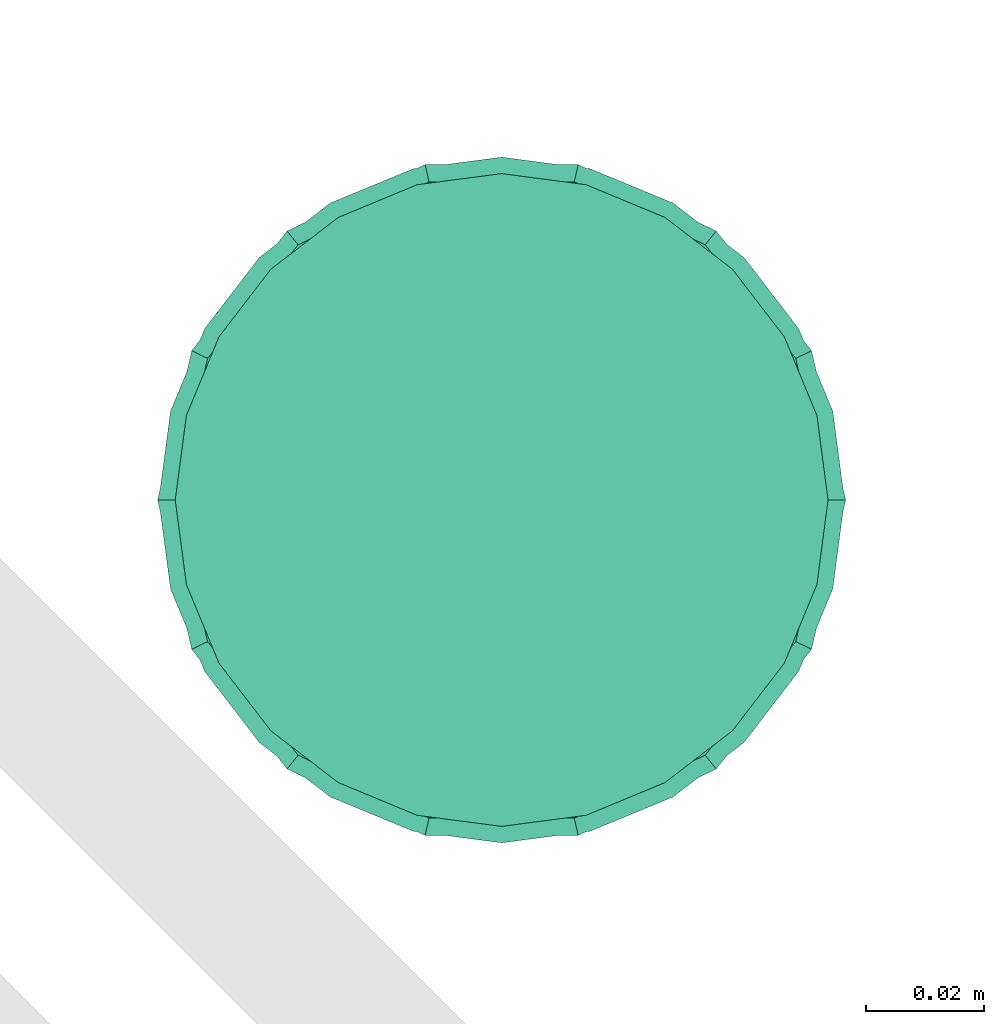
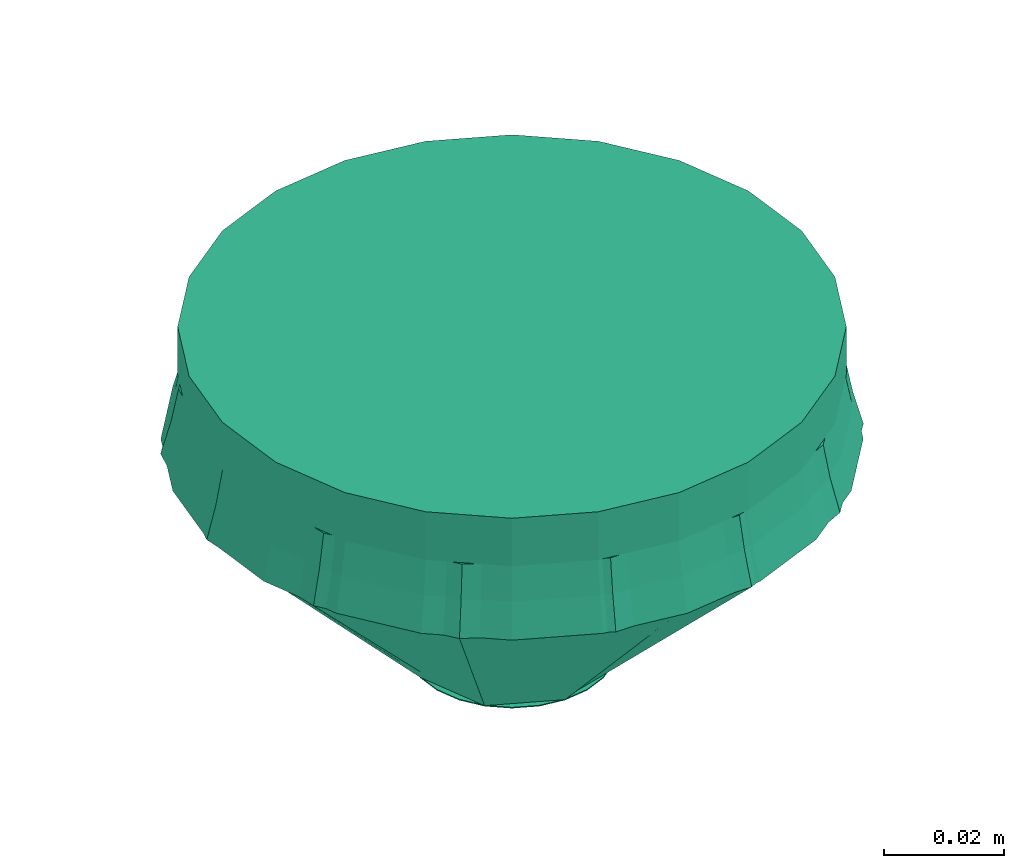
# One storey, part 21 of 51: 1 distribution control element.
"""IFC2X3 building model written with IfcOpenShell, lengths in millimetres."""

from ifc_helpers import new_model, entity, si_unit, converted_unit, derived_unit, direction, frame, origin_with_axes, place, context, subcontext, project, spatial, open_shell, surface_model, source, transform, mapped, type_object, element, save


model = new_model("IFC2X3")

# Units and contexts
model_context = context("Model", 3, precision=0.01, world=frame((0.0, 4.29681676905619e-09, 0.0)), true_north=direction((4.01073788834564e-13, 1.0)))
plan_context = context("Plan", 3, precision=0.01, world=frame((0.0, 4.29681676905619e-09, 0.0)), true_north=direction((4.01073788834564e-13, 1.0)))
body_context = subcontext(model_context, "Body", "Model", "MODEL_VIEW")
ifc_project = project(units=[converted_unit("PLANEANGLEUNIT", "DEGREE", entity("IfcPositiveLengthMeasure", 0.0174532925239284), si_unit("PLANEANGLEUNIT", "RADIAN"), dimensions=[0, 0, 0, 0, 0, 0, 0]), si_unit("AREAUNIT", "SQUARE_METRE"), si_unit("LENGTHUNIT", "METRE", prefix="MILLI"), si_unit("MASSUNIT", "GRAM", prefix="KILO"), si_unit("POWERUNIT", "WATT"), si_unit("PRESSUREUNIT", "PASCAL"), si_unit("FORCEUNIT", "NEWTON", prefix="KILO"), si_unit("ELECTRICVOLTAGEUNIT", "VOLT"), si_unit("ELECTRICCURRENTUNIT", "AMPERE"), si_unit("THERMODYNAMICTEMPERATUREUNIT", "DEGREE_CELSIUS"), si_unit("TIMEUNIT", "SECOND"), si_unit("VOLUMEUNIT", "CUBIC_METRE"), derived_unit("LINEARVELOCITYUNIT", [(si_unit("LENGTHUNIT", "METRE"), 1), (si_unit("TIMEUNIT", "SECOND"), -1)]), derived_unit("VOLUMETRICFLOWRATEUNIT", [(si_unit("VOLUMEUNIT", "CUBIC_METRE"), 1), (si_unit("TIMEUNIT", "SECOND"), -1)]), derived_unit("THERMALTRANSMITTANCEUNIT", [(si_unit("POWERUNIT", "WATT"), 1), (si_unit("THERMODYNAMICTEMPERATUREUNIT", "KELVIN"), -1), (si_unit("AREAUNIT", "SQUARE_METRE"), -1)]), derived_unit("SOUNDPRESSUREUNIT", [(si_unit("PRESSUREUNIT", "PASCAL"), 1)])], contexts=[model_context, plan_context])

# Site, building, storey
site_placement = place(None, frame((0.0, -4.29681676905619e-09, 0.0), z_axis=(0.0, 0.0, 1.0), x_axis=(1.0, 0.0, 0.0)))
site = spatial("IfcSite", under=ifc_project, at=site_placement, Name="ENGM", CompositionType="ELEMENT")
building_placement = place(site_placement, frame((0.0, 4.29681676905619e-09, 0.0), z_axis=(0.0, 0.0, 1.0), x_axis=(1.0, 0.0, 0.0)))
building = spatial("IfcBuilding", under=site, at=building_placement, Name="TI", CompositionType="ELEMENT")
storey_placement = place(building_placement, frame((0.0, 0.0, 210900.0), z_axis=(0.0, 0.0, 1.0), x_axis=(1.0, 0.0, 0.0)))
storey = spatial("IfcBuildingStorey", under=building, at=storey_placement, Name="Nivå F", CompositionType="ELEMENT", Elevation=210900.0)

# Distribution control element
alarm_type = type_object("IfcAlarmType", Name="Standard", PredefinedType="NOTDEFINED")
shared_shape = source(origin_with_axes(), body_context, "Body", "SurfaceModel", [
    surface_model("IfcShellBasedSurfaceModel", [(8.775, -15.19875, -64.9), (-12.40972, -12.40972, -64.9), (4.54227, -16.952, -64.9), (15.19875, -8.775, -64.9), (12.40972, -12.40972, -64.9), (16.952, -4.54227, -64.9), (-4.54227, 16.952, -64.9), (-16.952, -4.54227, -64.9), (0.0, -17.55, -64.9), (-8.775, -15.19875, -64.9), (-4.54227, -16.952, -64.9), (-15.19875, -8.775, -64.9), (17.55, 0.0, -64.9), (15.19875, 8.775, -64.9), (16.952, 4.54227, -64.9), (0.0, 17.55, -64.9), (12.40972, 12.40972, -64.9), (4.54227, 16.952, -64.9), (8.775, 15.19875, -64.9), (-17.55, 0.0, -64.9), (-15.19875, 8.775, -64.9), (-16.952, 4.54227, -64.9), (-12.40972, 12.40972, -64.9), (-8.775, 15.19875, -64.9), (16.952, 4.54227, -65.1), (0.0, 17.55, -65.1), (4.54227, 16.952, -65.1), (12.40972, 12.40972, -65.1), (8.775, 15.19875, -65.1), (15.19875, 8.775, -65.1), (-12.40972, 12.40972, -65.1), (-4.54227, 16.952, -65.1), (-8.775, 15.19875, -65.1), (-15.19875, 8.775, -65.1), (-17.55, 0.0, -65.1), (-16.952, 4.54227, -65.1), (-16.952, -4.54227, -65.1), (16.952, -4.54227, -65.1), (8.775, -15.19875, -65.1), (15.19875, -8.775, -65.1), (12.40972, -12.40972, -65.1), (-12.40972, -12.40972, -65.1), (4.54227, -16.952, -65.1), (-15.19875, -8.775, -65.1), (-8.775, -15.19875, -65.1), (0.0, -17.55, -65.1), (-4.54227, -16.952, -65.1), (17.55, 0.0, -65.1), (-36.47415, 45.73714, -22.75), (-52.70668, 25.3822, -22.75), (-58.5, 0.0, -22.75), (52.70668, 25.3822, -22.75), (13.01748, 57.03328, -22.75), (-13.01748, 57.03328, -22.75), (36.47415, 45.73714, -22.75), (-52.70668, -25.3822, -22.75), (-36.47415, -45.73714, -22.75), (-13.01748, -57.03328, -22.75), (36.47415, -45.73714, -22.75), (52.70668, -25.3822, -22.75), (58.5, 0.0, -22.75), (13.01748, -57.03328, -22.75), (0.0, 17.55, -65.0), (12.40972, 12.40972, -65.0), (-12.40972, 12.40972, -65.0), (-12.40972, -12.40972, -65.0), (-17.55, 0.0, -65.0), (17.55, 0.0, -65.0), (12.40972, -12.40972, -65.0), (0.0, -17.55, -65.0), (-44.59042, -35.55967, -22.75), (-13.69479, -9.30729, -65.0), (55.60334, -12.6911, -22.75), (14.97986, -6.20486, -65.0), (16.26493, -3.10243, -65.0), (-9.30729, -13.69479, -65.0), (-6.20486, -14.97986, -65.0), (-24.74581, -51.38521, -22.75), (-14.97986, -6.20486, -65.0), (24.74581, -51.38521, -22.75), (9.30729, -13.69479, -65.0), (-55.60334, -12.6911, -22.75), (-16.26493, -3.10243, -65.0), (-3.10243, -16.26493, -65.0), (3.10243, -16.26493, -65.0), (0.0, -57.03328, -22.75), (44.59042, -35.55967, -22.75), (13.69479, -9.30729, -65.0), (6.20486, -14.97986, -65.0), (44.59042, 35.55967, -22.75), (13.69479, 9.30729, -65.0), (-55.60334, 12.6911, -22.75), (-14.97986, 6.20486, -65.0), (-16.26493, 3.10243, -65.0), (9.30729, 13.69479, -65.0), (6.20486, 14.97986, -65.0), (24.74581, 51.38521, -22.75), (14.97986, 6.20486, -65.0), (-24.74581, 51.38521, -22.75), (-9.30729, 13.69479, -65.0), (55.60334, 12.6911, -22.75), (16.26493, 3.10243, -65.0), (3.10243, 16.26493, -65.0), (-3.10243, 16.26493, -65.0), (0.0, 57.03328, -22.75), (-44.59042, 35.55967, -22.75), (-13.69479, 9.30729, -65.0), (-6.20486, 14.97986, -65.0), (-28.275, 48.97374, -16.25), (-32.41056, 45.80041, -16.25), (-13.88456, 54.72206, -16.25), (-49.79102, 26.30191, -16.25), (-39.98689, 39.98689, -16.25), (-48.97374, 28.275, -16.25), (-37.1285, 42.18021, -16.25), (-35.38305, 44.36894, -16.25), (-56.2774, 2.07059, -16.25), (-56.75, 0.0, -16.25), (-56.55, 0.0, -16.25), (-51.91976, 21.16268, -16.25), (-51.12998, 24.6229, -16.25), (-54.62311, 14.63622, -16.25), (28.275, 48.97374, -16.25), (14.63622, 54.62311, -16.25), (13.88456, 54.72206, -16.25), (54.62311, -14.63622, -16.25), (56.2774, -2.07059, -16.25), (51.91976, -21.16268, -16.25), (12.62806, 55.32716, -16.25), (9.2884, 55.32716, -16.25), (49.79102, 26.30191, -16.25), (39.98689, 39.98689, -16.25), (37.1285, 42.18021, -16.25), (56.55, 0.0, -16.25), (56.75, 0.0, -16.25), (56.2774, 2.07059, -16.25), (39.98689, -39.98689, -16.25), (49.79102, -26.30191, -16.25), (37.1285, -42.18021, -16.25), (35.38305, 44.36894, -16.25), (32.41056, 45.80041, -16.25), (35.38305, -44.36894, -16.25), (32.41056, -45.80041, -16.25), (-56.2774, -2.07059, -16.25), (-49.79102, -26.30191, -16.25), (-51.91976, -21.16268, -16.25), (-51.12998, -24.6229, -16.25), (-37.1285, -42.18021, -16.25), (-35.38305, -44.36894, -16.25), (-32.41056, -45.80041, -16.25), (-13.88456, -54.72206, -16.25), (-28.275, -48.97374, -16.25), (-14.63622, -54.62311, -16.25), (51.12998, -24.6229, -16.25), (-39.98689, -39.98689, -16.25), (-48.97374, -28.275, -16.25), (-9.2884, 55.32716, -16.25), (-12.62806, 55.32716, -16.25), (28.275, -48.97374, -16.25), (13.88456, -54.72206, -16.25), (14.63622, -54.62311, -16.25), (48.97374, -28.275, -16.25), (12.62806, -55.32716, -16.25), (9.2884, -55.32716, -16.25), (0.0, -56.55, -16.25), (-9.2884, -55.32716, -16.25), (-12.62806, -55.32716, -16.25), (-54.62311, -14.63622, -16.25), (-14.63622, 54.62311, -16.25), (0.0, 56.55, -16.25), (48.97374, 28.275, -16.25), (51.91976, 21.16268, -16.25), (51.12998, 24.6229, -16.25), (54.62311, 14.63622, -16.25), (29.15, 50.48928, -22.75), (33.43697, 47.19977, -22.75), (14.29509, 56.41801, -22.75), (51.34019, 27.09572, -22.75), (41.22432, 41.22432, -22.75), (50.48928, 29.15, -22.75), (58.0274, 2.07059, -22.75), (58.3, 0.0, -22.75), (38.25759, 43.50078, -22.75), (-33.43697, 47.19977, -22.75), (-38.25759, 43.50078, -22.75), (56.31348, 15.08915, -22.75), (53.51269, 21.85086, -22.75), (-14.29509, -56.41801, -22.75), (-9.62167, -57.03328, -22.75), (-29.15, 50.48928, -22.75), (-15.08915, 56.31348, -22.75), (-14.29509, 56.41801, -22.75), (-56.31348, -15.08915, -22.75), (-58.0274, -2.07059, -22.75), (-53.51269, -21.85086, -22.75), (-9.62167, 57.03328, -22.75), (-51.34019, 27.09572, -22.75), (-41.22432, 41.22432, -22.75), (-41.22432, -41.22432, -22.75), (-51.34019, -27.09572, -22.75), (-38.25759, -43.50078, -22.75), (-58.3, 0.0, -22.75), (-58.0274, 2.07059, -22.75), (58.0274, -2.07059, -22.75), (-33.43697, -47.19977, -22.75), (51.34019, -27.09572, -22.75), (53.51269, -21.85086, -22.75), (41.22432, -41.22432, -22.75), (38.25759, -43.50078, -22.75), (29.15, -50.48928, -22.75), (15.08915, -56.31348, -22.75), (14.29509, -56.41801, -22.75), (9.62167, -57.03328, -22.75), (33.43697, -47.19977, -22.75), (50.48928, -29.15, -22.75), (9.62167, 57.03328, -22.75), (-29.15, -50.48928, -22.75), (-15.08915, -56.31348, -22.75), (-50.48928, -29.15, -22.75), (0.0, -58.3, -22.75), (56.31348, -15.08915, -22.75), (15.08915, 56.31348, -22.75), (0.0, 58.3, -22.75), (-50.48928, 29.15, -22.75), (-53.51269, 21.85086, -22.75), (-56.31348, 15.08915, -22.75), (53.15004, -15.77246, -16.25), (43.25652, -34.49592, -16.25), (-54.78902, -16.25884, -22.75), (-53.93999, -12.31145, -16.25), (24.00555, -49.84805, -16.25), (0.0, -55.32716, -16.25), (-24.00555, -49.84805, -16.25), (-43.25652, -34.49592, -16.25), (-53.15004, 15.77246, -16.25), (-43.25652, 34.49592, -16.25), (54.78902, 16.25884, -22.75), (53.93999, 12.31145, -16.25), (-24.00555, 49.84805, -16.25), (0.0, 55.32716, -16.25), (24.00555, 49.84805, -16.25), (43.25652, 34.49592, -16.25), (-27.65, 47.8912, -9.75), (-31.6774, 44.80087, -9.75), (-13.59132, 53.51067, -9.75), (-48.68446, 25.73491, -9.75), (-39.103, 39.103, -9.75), (-47.8912, 27.65, -9.75), (-34.60368, 43.39165, -9.75), (-36.322, 41.23694, -9.75), (-55.0274, 2.07059, -9.75), (-55.5, 0.0, -9.75), (-55.3, 0.0, -9.75), (-50.00377, 24.08055, -9.75), (-50.78195, 20.67112, -9.75), (-53.4157, 14.31269, -9.75), (27.65, 47.8912, -9.75), (14.31269, 53.4157, -9.75), (13.59132, 53.51067, -9.75), (53.4157, -14.31269, -9.75), (55.0274, -2.07059, -9.75), (50.78195, -20.67112, -9.75), (9.05035, 54.1085, -9.75), (12.34991, 54.1085, -9.75), (48.68446, 25.73491, -9.75), (39.103, 39.103, -9.75), (36.322, 41.23694, -9.75), (39.103, -39.103, -9.75), (48.68446, -25.73491, -9.75), (36.322, -41.23694, -9.75), (34.60368, 43.39165, -9.75), (31.6774, 44.80087, -9.75), (55.0274, 2.07059, -9.75), (55.3, 0.0, -9.75), (55.5, 0.0, -9.75), (34.60368, -43.39165, -9.75), (31.6774, -44.80087, -9.75), (-55.0274, -2.07059, -9.75), (-48.68446, -25.73491, -9.75), (-50.78195, -20.67112, -9.75), (-50.00377, -24.08055, -9.75), (-12.34991, -54.1085, -9.75), (-9.05035, -54.1085, -9.75), (-13.59132, -53.51067, -9.75), (-27.65, -47.8912, -9.75), (-14.31269, -53.4157, -9.75), (50.00377, -24.08055, -9.75), (-31.6774, -44.80087, -9.75), (-39.103, -39.103, -9.75), (-36.322, -41.23694, -9.75), (-47.8912, -27.65, -9.75), (-9.05035, 54.1085, -9.75), (-12.34991, 54.1085, -9.75), (27.65, -47.8912, -9.75), (13.59132, -53.51067, -9.75), (14.31269, -53.4157, -9.75), (47.8912, -27.65, -9.75), (0.0, -55.3, -9.75), (9.05035, -54.1085, -9.75), (12.34991, -54.1085, -9.75), (-34.60368, -43.39165, -9.75), (-53.4157, -14.31269, -9.75), (-14.31269, 53.4157, -9.75), (0.0, 55.3, -9.75), (47.8912, 27.65, -9.75), (50.78195, 20.67112, -9.75), (50.00377, 24.08055, -9.75), (53.4157, 14.31269, -9.75), (51.93259, -15.62982, -9.75), (42.30373, -33.7361, -9.75), (-53.10225, -15.98184, -16.25), (-52.75189, -12.04027, -9.75), (23.4768, -48.75007, -9.75), (53.93999, -12.31145, -16.25), (0.0, -54.1085, -9.75), (-23.4768, -48.75007, -9.75), (-42.30373, -33.7361, -9.75), (-51.93259, 15.62982, -9.75), (-42.30373, 33.7361, -9.75), (53.10225, 15.98184, -16.25), (52.75189, 12.04027, -9.75), (-23.4768, 48.75007, -9.75), (-53.93999, 12.31145, -16.25), (0.0, 54.1085, -9.75), (23.4768, 48.75007, -9.75), (42.30373, 33.7361, -9.75), (14.36446, -53.60888, 0.0), (27.75, -48.06441, 0.0), (39.24443, -39.24443, 0.0), (0.0, -55.5, 0.0), (48.06441, -27.75, 0.0), (53.60888, -14.36446, 0.0), (55.5, 0.0, 0.0), (-27.75, -48.06441, 0.0), (-14.36446, -53.60888, 0.0), (-48.06441, -27.75, 0.0), (-39.24443, -39.24443, 0.0), (-53.60888, -14.36446, 0.0), (48.06441, 27.75, 0.0), (14.36446, 53.60888, 0.0), (39.24443, 39.24443, 0.0), (0.0, 55.5, 0.0), (27.75, 48.06441, 0.0), (-27.75, 48.06441, 0.0), (-55.5, 0.0, 0.0), (-48.06441, 27.75, 0.0), (-53.60888, 14.36446, 0.0), (-39.24443, 39.24443, 0.0), (-14.36446, 53.60888, 0.0), (53.60888, 14.36446, 0.0), (14.36446, 53.60888, -9.75), (-27.75, 48.06441, -9.75), (0.0, 55.5, -9.75), (39.24443, 39.24443, -9.75), (27.75, 48.06441, -9.75), (48.06441, 27.75, -9.75), (53.60888, 14.36446, -9.75), (-48.06441, 27.75, -9.75), (-39.24443, 39.24443, -9.75), (-14.36446, 53.60888, -9.75), (-53.60888, 14.36446, -9.75), (53.60888, -14.36446, -9.75), (48.06441, -27.75, -9.75), (-53.60888, -14.36446, -9.75), (39.24443, -39.24443, -9.75), (27.75, -48.06441, -9.75), (14.36446, -53.60888, -9.75), (-27.75, -48.06441, -9.75), (-48.06441, -27.75, -9.75), (-39.24443, -39.24443, -9.75), (0.0, -55.5, -9.75), (-14.36446, -53.60888, -9.75)], [open_shell([[[0, 1, 2]], [[3, 0, 4]], [[0, 5, 1]], [[5, 0, 3]], [[5, 6, 7]], [[8, 9, 10]], [[9, 8, 1]], [[1, 7, 11]], [[1, 8, 2]], [[5, 7, 1]], [[5, 12, 6]], [[13, 6, 14]], [[15, 13, 16]], [[17, 15, 16]], [[17, 16, 18]], [[6, 13, 15]], [[19, 20, 21]], [[19, 7, 20]], [[22, 6, 23]], [[7, 22, 20]], [[6, 22, 7]], [[12, 14, 6]], [[24, 25, 26]], [[27, 26, 28]], [[29, 24, 26]], [[29, 26, 27]], [[25, 24, 30]], [[31, 30, 32]], [[31, 25, 30]], [[33, 34, 35]], [[36, 34, 33]], [[33, 30, 36]], [[30, 24, 37]], [[36, 30, 37]], [[38, 37, 39]], [[36, 37, 38]], [[38, 39, 40]], [[41, 38, 42]], [[36, 41, 43]], [[36, 38, 41]], [[44, 45, 46]], [[45, 44, 41]], [[42, 45, 41]], [[37, 24, 47]], [[36, 7, 34]], [[43, 11, 36]], [[9, 41, 44]], [[43, 41, 1]], [[10, 44, 46]], [[36, 11, 7]], [[7, 19, 34]], [[10, 9, 44]], [[1, 41, 9]], [[1, 11, 43]], [[8, 10, 46]], [[46, 45, 8]], [[42, 2, 45]], [[38, 0, 42]], [[3, 40, 39]], [[38, 40, 4]], [[5, 39, 37]], [[38, 4, 0]], [[0, 2, 42]], [[12, 5, 37]], [[3, 39, 5]], [[3, 4, 40]], [[47, 12, 37]], [[45, 2, 8]], [[24, 14, 47]], [[29, 13, 24]], [[18, 27, 28]], [[29, 27, 16]], [[17, 28, 26]], [[24, 13, 14]], [[14, 12, 47]], [[17, 18, 28]], [[16, 27, 18]], [[16, 13, 29]], [[15, 17, 26]], [[26, 25, 15]], [[31, 6, 25]], [[32, 23, 31]], [[20, 30, 33]], [[32, 30, 22]], [[21, 33, 35]], [[32, 22, 23]], [[23, 6, 31]], [[19, 21, 35]], [[20, 33, 21]], [[20, 22, 30]], [[34, 19, 35]], [[25, 6, 15]], [[48, 49, 50]], [[48, 50, 51]], [[52, 53, 51]], [[51, 54, 52]], [[53, 48, 51]], [[50, 55, 51]], [[55, 56, 57]], [[57, 58, 51]], [[59, 60, 58]], [[60, 51, 58]], [[57, 61, 58]], [[51, 55, 57]], [[62, 63, 64]], [[65, 66, 64]], [[64, 63, 65]], [[67, 68, 69]], [[69, 65, 67]], [[67, 65, 63]], [[65, 70, 71]], [[72, 73, 74]], [[75, 76, 77]], [[55, 78, 71]], [[79, 80, 58]], [[78, 55, 81]], [[81, 82, 78]], [[57, 76, 83]], [[84, 85, 69]], [[59, 73, 72]], [[55, 71, 70]], [[69, 85, 83]], [[60, 74, 67]], [[68, 86, 58]], [[86, 68, 87]], [[56, 65, 75]], [[87, 59, 86]], [[60, 72, 74]], [[65, 56, 70]], [[66, 82, 50]], [[50, 82, 81]], [[56, 75, 77]], [[80, 79, 88]], [[61, 84, 88]], [[80, 68, 58]], [[87, 73, 59]], [[76, 57, 77]], [[85, 84, 61]], [[57, 83, 85]], [[79, 61, 88]], [[63, 89, 90]], [[91, 92, 93]], [[94, 95, 96]], [[51, 97, 90]], [[98, 99, 48]], [[97, 51, 100]], [[100, 101, 97]], [[52, 95, 102]], [[103, 104, 62]], [[49, 92, 91]], [[51, 90, 89]], [[62, 104, 102]], [[50, 93, 66]], [[64, 105, 48]], [[105, 64, 106]], [[54, 63, 94]], [[106, 49, 105]], [[50, 91, 93]], [[63, 54, 89]], [[67, 101, 60]], [[60, 101, 100]], [[54, 94, 96]], [[99, 98, 107]], [[53, 103, 107]], [[99, 64, 48]], [[106, 92, 49]], [[95, 52, 96]], [[104, 103, 53]], [[52, 102, 104]], [[98, 53, 107]], [[108, 109, 110]], [[111, 112, 113]], [[114, 109, 115]], [[116, 117, 118]], [[119, 111, 120]], [[121, 116, 119]], [[122, 123, 124]], [[125, 126, 127]], [[128, 129, 124]], [[130, 131, 132]], [[133, 134, 135]], [[136, 137, 138]], [[132, 139, 140]], [[141, 138, 142]], [[112, 111, 114]], [[117, 143, 118]], [[144, 145, 146]], [[147, 148, 149]], [[150, 151, 152]], [[127, 137, 153]], [[151, 150, 149]], [[154, 147, 144]], [[154, 144, 155]], [[110, 156, 157]], [[158, 159, 160]], [[133, 126, 134]], [[161, 137, 136]], [[162, 159, 163]], [[164, 163, 165]], [[158, 142, 159]], [[150, 166, 165]], [[167, 145, 143]], [[108, 110, 168]], [[169, 156, 129]], [[122, 124, 140]], [[131, 130, 170]], [[130, 171, 172]], [[173, 171, 135]], [[174, 175, 176]], [[177, 178, 179]], [[180, 60, 181]], [[54, 182, 175]], [[48, 183, 184]], [[185, 180, 186]], [[57, 187, 188]], [[189, 190, 191]], [[192, 193, 194]], [[195, 191, 53]], [[196, 197, 184]], [[198, 199, 200]], [[51, 186, 177]], [[201, 50, 202]], [[203, 181, 60]], [[178, 177, 182]], [[204, 56, 200]], [[205, 206, 59]], [[205, 207, 208]], [[209, 210, 211]], [[212, 211, 61]], [[209, 211, 213]], [[194, 199, 55]], [[207, 205, 214]], [[215, 52, 176]], [[216, 187, 217]], [[201, 193, 50]], [[198, 218, 199]], [[208, 58, 213]], [[219, 188, 212]], [[204, 187, 216]], [[220, 206, 203]], [[174, 176, 221]], [[222, 215, 195]], [[189, 191, 183]], [[197, 196, 223]], [[196, 224, 49]], [[225, 224, 202]], [[153, 59, 226]], [[141, 86, 227]], [[228, 146, 229]], [[162, 79, 230]], [[134, 226, 72]], [[72, 60, 134]], [[226, 59, 72]], [[230, 58, 141]], [[59, 153, 227]], [[141, 58, 86]], [[85, 231, 166]], [[166, 57, 85]], [[148, 77, 232]], [[56, 233, 70]], [[146, 70, 233]], [[57, 232, 77]], [[146, 55, 70]], [[50, 229, 117]], [[162, 61, 79]], [[232, 57, 166]], [[58, 230, 79]], [[146, 228, 55]], [[56, 148, 233]], [[59, 227, 86]], [[148, 56, 77]], [[162, 231, 61]], [[50, 228, 229]], [[61, 231, 85]], [[120, 49, 234]], [[115, 105, 235]], [[236, 172, 237]], [[157, 98, 238]], [[117, 234, 91]], [[91, 50, 117]], [[234, 49, 91]], [[238, 48, 115]], [[49, 120, 235]], [[115, 48, 105]], [[104, 239, 128]], [[128, 52, 104]], [[139, 96, 240]], [[54, 241, 89]], [[172, 89, 241]], [[52, 240, 96]], [[172, 51, 89]], [[60, 237, 134]], [[157, 53, 98]], [[240, 52, 128]], [[48, 238, 98]], [[172, 236, 51]], [[54, 139, 241]], [[49, 235, 105]], [[139, 54, 96]], [[157, 239, 53]], [[60, 236, 237]], [[53, 239, 104]], [[125, 133, 181]], [[125, 220, 161]], [[158, 136, 207]], [[214, 136, 161]], [[160, 158, 209]], [[220, 125, 181]], [[214, 161, 220]], [[207, 209, 158]], [[136, 214, 207]], [[210, 160, 209]], [[210, 219, 164]], [[160, 210, 164]], [[151, 152, 217]], [[151, 216, 154]], [[167, 155, 218]], [[198, 155, 154]], [[118, 167, 192]], [[152, 219, 217]], [[151, 217, 216]], [[155, 198, 218]], [[118, 192, 201]], [[192, 167, 218]], [[198, 154, 216]], [[164, 219, 152]], [[121, 118, 201]], [[121, 225, 113]], [[108, 112, 197]], [[223, 112, 113]], [[168, 108, 189]], [[225, 121, 201]], [[223, 113, 225]], [[197, 189, 108]], [[112, 223, 197]], [[190, 168, 189]], [[190, 222, 169]], [[168, 190, 169]], [[122, 123, 221]], [[122, 174, 131]], [[173, 170, 179]], [[178, 170, 131]], [[133, 173, 185]], [[123, 222, 221]], [[122, 221, 174]], [[170, 178, 179]], [[133, 185, 181]], [[185, 173, 179]], [[178, 131, 174]], [[169, 222, 123]], [[242, 243, 244]], [[245, 246, 247]], [[243, 248, 249]], [[250, 251, 252]], [[253, 254, 245]], [[255, 250, 254]], [[256, 257, 258]], [[259, 260, 261]], [[262, 258, 263]], [[264, 265, 266]], [[267, 268, 269]], [[266, 270, 271]], [[272, 273, 274]], [[275, 269, 276]], [[246, 245, 249]], [[277, 252, 251]], [[278, 279, 280]], [[281, 282, 283]], [[283, 284, 285]], [[261, 268, 286]], [[284, 283, 287]], [[288, 289, 278]], [[288, 278, 290]], [[244, 291, 292]], [[293, 294, 295]], [[273, 260, 274]], [[268, 267, 296]], [[294, 293, 276]], [[297, 298, 282]], [[298, 299, 294]], [[300, 287, 289]], [[301, 279, 277]], [[242, 244, 302]], [[303, 291, 262]], [[256, 258, 271]], [[265, 264, 304]], [[264, 305, 306]], [[307, 305, 272]], [[122, 140, 124]], [[170, 130, 131]], [[135, 134, 133]], [[140, 139, 132]], [[172, 171, 130]], [[173, 135, 171]], [[110, 157, 156]], [[108, 168, 110]], [[167, 143, 145]], [[114, 111, 112]], [[154, 144, 147]], [[115, 109, 114]], [[116, 118, 117]], [[150, 165, 166]], [[131, 130, 132]], [[126, 133, 134]], [[137, 127, 153]], [[145, 144, 146]], [[159, 158, 160]], [[163, 159, 162]], [[158, 159, 142]], [[136, 138, 137]], [[136, 137, 161]], [[124, 129, 128]], [[151, 150, 152]], [[118, 143, 117]], [[155, 144, 154]], [[147, 149, 148]], [[164, 165, 163]], [[151, 149, 150]], [[138, 141, 142]], [[125, 127, 126]], [[122, 124, 123]], [[169, 129, 156]], [[108, 110, 109]], [[112, 111, 113]], [[111, 119, 120]], [[121, 119, 116]], [[286, 153, 308]], [[275, 227, 309]], [[310, 280, 311]], [[299, 230, 312]], [[274, 308, 313]], [[313, 134, 274]], [[308, 153, 313]], [[312, 141, 275]], [[153, 286, 309]], [[275, 141, 227]], [[231, 314, 281]], [[281, 166, 231]], [[300, 232, 315]], [[148, 316, 233]], [[280, 233, 316]], [[166, 315, 232]], [[280, 146, 233]], [[117, 311, 251]], [[299, 162, 230]], [[315, 166, 281]], [[141, 312, 230]], [[280, 310, 146]], [[148, 300, 316]], [[153, 309, 227]], [[300, 148, 232]], [[299, 314, 162]], [[117, 310, 311]], [[162, 314, 231]], [[253, 120, 317]], [[248, 235, 318]], [[319, 306, 320]], [[292, 238, 321]], [[251, 317, 322]], [[322, 117, 251]], [[317, 120, 322]], [[321, 115, 248]], [[120, 253, 318]], [[248, 115, 235]], [[239, 323, 263]], [[263, 128, 239]], [[270, 240, 324]], [[139, 325, 241]], [[306, 241, 325]], [[128, 324, 240]], [[306, 172, 241]], [[134, 320, 274]], [[292, 157, 238]], [[324, 128, 263]], [[115, 321, 238]], [[306, 319, 172]], [[139, 270, 325]], [[120, 318, 235]], [[270, 139, 240]], [[292, 323, 157]], [[134, 319, 320]], [[157, 323, 239]], [[259, 273, 133]], [[259, 125, 296]], [[293, 267, 136]], [[161, 267, 296]], [[295, 293, 158]], [[125, 259, 133]], [[161, 296, 125]], [[136, 158, 293]], [[267, 161, 136]], [[160, 295, 158]], [[160, 164, 297]], [[295, 160, 297]], [[284, 285, 152]], [[284, 151, 288]], [[301, 290, 155]], [[154, 290, 288]], [[252, 301, 167]], [[285, 164, 152]], [[284, 152, 151]], [[290, 154, 155]], [[252, 167, 118]], [[167, 301, 155]], [[154, 288, 151]], [[297, 164, 285]], [[255, 252, 118]], [[255, 121, 247]], [[242, 246, 112]], [[113, 246, 247]], [[302, 242, 108]], [[121, 255, 118]], [[113, 247, 121]], [[112, 108, 242]], [[246, 113, 112]], [[168, 302, 108]], [[168, 169, 303]], [[302, 168, 303]], [[256, 257, 123]], [[256, 122, 265]], [[307, 304, 170]], [[131, 304, 265]], [[273, 307, 173]], [[257, 169, 123]], [[256, 123, 122]], [[304, 131, 170]], [[273, 173, 133]], [[173, 307, 170]], [[131, 265, 122]], [[303, 169, 257]], [[326, 327, 328]], [[329, 326, 328]], [[330, 331, 332]], [[329, 328, 330]], [[333, 330, 332]], [[329, 333, 334]], [[329, 330, 333]], [[333, 335, 336]], [[335, 333, 337]], [[332, 337, 333]], [[332, 338, 337]], [[337, 338, 339]], [[339, 338, 340]], [[339, 341, 337]], [[339, 340, 342]], [[343, 337, 341]], [[344, 345, 346]], [[337, 345, 344]], [[345, 343, 347]], [[343, 345, 337]], [[341, 348, 343]], [[338, 332, 349]], [[350, 351, 352]], [[353, 350, 354]], [[355, 356, 350]], [[355, 350, 353]], [[357, 350, 356]], [[351, 357, 358]], [[351, 359, 352]], [[357, 251, 360]], [[357, 351, 350]], [[251, 357, 356]], [[356, 274, 251]], [[274, 361, 362]], [[363, 274, 362]], [[364, 365, 366]], [[362, 364, 363]], [[366, 367, 364]], [[368, 367, 369]], [[368, 363, 364]], [[367, 370, 371]], [[368, 364, 367]], [[366, 370, 367]], [[274, 363, 251]], [[363, 337, 251]], [[368, 335, 363]], [[333, 369, 367]], [[368, 369, 336]], [[334, 367, 371]], [[363, 335, 337]], [[337, 344, 251]], [[334, 333, 367]], [[336, 369, 333]], [[336, 335, 368]], [[329, 334, 371]], [[371, 370, 329]], [[366, 326, 370]], [[365, 327, 366]], [[330, 364, 362]], [[365, 364, 328]], [[331, 362, 361]], [[365, 328, 327]], [[327, 326, 366]], [[332, 331, 361]], [[330, 362, 331]], [[330, 328, 364]], [[274, 332, 361]], [[370, 326, 329]], [[356, 349, 274]], [[355, 338, 356]], [[342, 353, 354]], [[355, 353, 340]], [[339, 354, 350]], [[356, 338, 349]], [[349, 332, 274]], [[339, 342, 354]], [[340, 353, 342]], [[340, 338, 355]], [[341, 339, 350]], [[350, 352, 341]], [[359, 348, 352]], [[351, 343, 359]], [[345, 358, 357]], [[351, 358, 347]], [[346, 357, 360]], [[351, 347, 343]], [[343, 348, 359]], [[344, 346, 360]], [[345, 357, 346]], [[345, 347, 358]], [[251, 344, 360]], [[352, 348, 341]]])]),
])
distribution_control_element_placement = place(storey_placement, frame((607364.00966, 699043.16925, 2000.0), z_axis=(0.0, 0.0, 1.0), x_axis=(1.0, 0.0, 0.0)))
element("IfcDistributionControlElement", 1, at=distribution_control_element_placement, inside=storey, type_object=alarm_type, Name="Standard", context=body_context, shape_type="MappedRepresentation", body=[
    mapped(shared_shape, transform((0.0, 0.0, 0.0), scale=1.0)),
])

save(model, "model.ifc")
